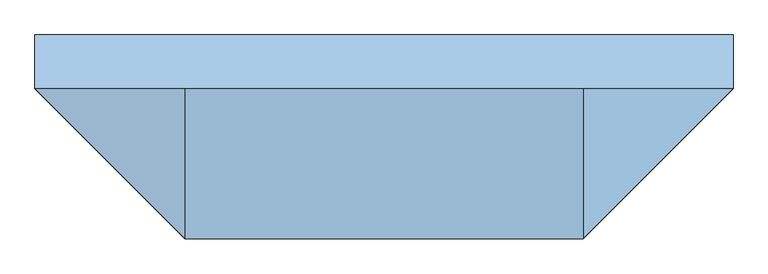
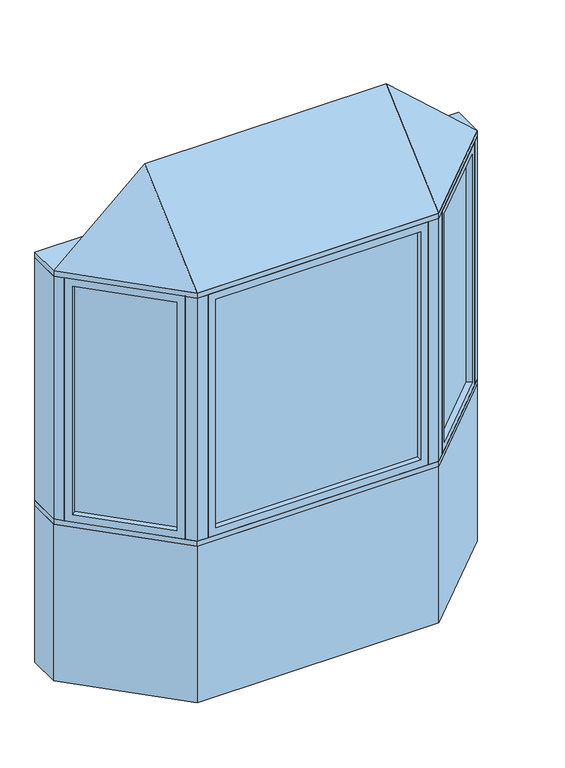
"""IFC4 building model written with IfcOpenShell, lengths in millimetres: window geometry, Pollard_Windows_Tudor Casement Bows and Bays : AML-BAY 45 AFR0512-10-500."""

from ifc_helpers import new_model, si_unit, frame, origin, origin_with_axes, place, context, project, spatial, polyline, outline, extrude, faceted_brep, source, transform, mapped, element, save


def window_99e7ff35(model_context):
    return source(origin(), model_context, "Body", "SolidModel", [
        extrude(outline(polyline([(924.0964271, -104.763169), (598.324814, -430.5347822), (594.7327115, -426.9426797), (920.5043247, -101.1710666), (924.0964271, -104.763169)])), frame((0.0, 0.0, 823.1628), z_axis=(0.0, 0.0, 1.0), x_axis=(1.0, 0.0, 0.0)), (0.0, 0.0, 1.0), 1153.6704),
        faceted_brep([(915.116171, -113.7434252, 835.8628), (933.0766833, -131.7039374, 835.8628), (933.0766833, -131.7039374, 1964.1332), (915.116171, -113.7434252, 1964.1332), (920.5043247, -101.1710666, 823.1628), (924.0964271, -104.763169, 823.1628), (924.0964271, -104.763169, 1976.8332), (920.5043247, -101.1710666, 1976.8332), (893.5635563, -92.1908105, 835.8628), (911.5240686, -110.1513227, 835.8628), (911.5240686, -110.1513227, 1964.1332), (893.5635563, -92.1908105, 1964.1332), (958.4369265, -106.3436941, 799.998), (918.9237996, -66.8305672, 799.998), (918.9237996, -66.8305672, 1999.998), (958.4369265, -106.3436941, 1999.998), (625.2655823, -439.5150383, 1964.1332), (607.3050701, -421.5545261, 1964.1332), (598.324814, -430.5347822, 1976.8332), (594.7327115, -426.9426797, 1976.8332), (603.7129677, -417.9624236, 1964.1332), (585.7524554, -400.0019114, 1964.1332), (560.3922121, -425.3621547, 1999.998), (599.9053391, -464.8752816, 1999.998), (625.2655823, -439.5150383, 835.8628), (607.3050701, -421.5545261, 835.8628), (598.324814, -430.5347822, 823.1628), (594.7327115, -426.9426797, 823.1628), (603.7129677, -417.9624236, 835.8628), (585.7524554, -400.0019114, 835.8628), (560.3922121, -425.3621547, 799.998), (599.9053391, -464.8752816, 799.998)], [[[0, 1, 2, 3]], [[4, 5, 6, 7]], [[8, 9, 10, 11]], [[12, 13, 14, 15]], [[3, 2, 16, 17]], [[7, 6, 18, 19]], [[11, 10, 20, 21]], [[15, 14, 22, 23]], [[17, 16, 24, 25]], [[19, 18, 26, 27]], [[21, 20, 28, 29]], [[23, 22, 30, 31]], [[25, 24, 1, 0]], [[5, 26, 18, 6], [3, 17, 25, 0]], [[27, 26, 5, 4]], [[7, 19, 27, 4], [9, 28, 20, 10]], [[29, 28, 9, 8]], [[13, 30, 22, 14], [11, 21, 29, 8]], [[31, 30, 13, 12]], [[15, 23, 31, 12], [1, 24, 16, 2]]]),
        extrude(outline(polyline([(-598.324814, -430.5347822), (-924.0964271, -104.763169), (-920.5043247, -101.1710666), (-594.7327115, -426.9426797), (-598.324814, -430.5347822)])), frame((0.0, 0.0, 823.1628), z_axis=(0.0, 0.0, 1.0), x_axis=(1.0, 0.0, 0.0)), (0.0, 0.0, 1.0), 1153.6704),
        faceted_brep([(-603.7129677, -417.9624236, 1964.1332), (-585.7524554, -400.0019114, 1964.1332), (-585.7524554, -400.0019114, 835.8628), (-603.7129677, -417.9624236, 835.8628), (-598.324814, -430.5347822, 1976.8332), (-594.7327115, -426.9426797, 1976.8332), (-594.7327115, -426.9426797, 823.1628), (-598.324814, -430.5347822, 823.1628), (-625.2655823, -439.5150383, 1964.1332), (-607.3050701, -421.5545261, 1964.1332), (-607.3050701, -421.5545261, 835.8628), (-625.2655823, -439.5150383, 835.8628), (-560.3922121, -425.3621547, 1999.998), (-599.9053391, -464.8752816, 1999.998), (-599.9053391, -464.8752816, 799.998), (-560.3922121, -425.3621547, 799.998), (-893.5635563, -92.1908105, 835.8628), (-911.5240686, -110.1513227, 835.8628), (-920.5043247, -101.1710666, 823.1628), (-924.0964271, -104.763169, 823.1628), (-915.116171, -113.7434252, 835.8628), (-933.0766833, -131.7039374, 835.8628), (-958.4369265, -106.3436941, 799.998), (-918.9237996, -66.8305672, 799.998), (-893.5635563, -92.1908105, 1964.1332), (-911.5240686, -110.1513227, 1964.1332), (-920.5043247, -101.1710666, 1976.8332), (-924.0964271, -104.763169, 1976.8332), (-915.116171, -113.7434252, 1964.1332), (-933.0766833, -131.7039374, 1964.1332), (-958.4369265, -106.3436941, 1999.998), (-918.9237996, -66.8305672, 1999.998)], [[[0, 1, 2, 3]], [[4, 5, 6, 7]], [[8, 9, 10, 11]], [[12, 13, 14, 15]], [[3, 2, 16, 17]], [[7, 6, 18, 19]], [[11, 10, 20, 21]], [[15, 14, 22, 23]], [[17, 16, 24, 25]], [[19, 18, 26, 27]], [[21, 20, 28, 29]], [[23, 22, 30, 31]], [[15, 23, 31, 12], [1, 24, 16, 2]], [[25, 24, 1, 0]], [[5, 26, 18, 6], [3, 17, 25, 0]], [[27, 26, 5, 4]], [[7, 19, 27, 4], [9, 28, 20, 10]], [[29, 28, 9, 8]], [[13, 30, 22, 14], [11, 21, 29, 8]], [[31, 30, 13, 12]]]),
        extrude(outline(polyline([(491.3852, -474.8306207), (-491.3852, -474.8306207), (-491.3852, -469.7506207), (491.3852, -469.7506207), (491.3852, -474.8306207)])), frame((0.0, 0.0, 823.1628), z_axis=(0.0, 0.0, 1.0), x_axis=(1.0, 0.0, 0.0)), (0.0, 0.0, 1.0), 1153.6704),
        faceted_brep([(478.6852, -474.8306207, 835.8628), (478.6852, -500.2306207, 835.8628), (478.6852, -500.2306207, 1964.1332), (478.6852, -474.8306207, 1964.1332), (491.3852, -469.7506207, 823.1628), (491.3852, -474.8306207, 823.1628), (491.3852, -474.8306207, 1976.8332), (491.3852, -469.7506207, 1976.8332), (478.6852, -444.3506207, 835.8628), (478.6852, -469.7506207, 835.8628), (478.6852, -469.7506207, 1964.1332), (478.6852, -444.3506207, 1964.1332), (514.55, -500.2306207, 799.998), (514.55, -444.3506207, 799.998), (514.55, -444.3506207, 1999.998), (514.55, -500.2306207, 1999.998), (-478.6852, -500.2306207, 1964.1332), (-478.6852, -474.8306207, 1964.1332), (-491.3852, -474.8306207, 1976.8332), (-491.3852, -469.7506207, 1976.8332), (-478.6852, -469.7506207, 1964.1332), (-478.6852, -444.3506207, 1964.1332), (-514.55, -444.3506207, 1999.998), (-514.55, -500.2306207, 1999.998), (-478.6852, -500.2306207, 835.8628), (-478.6852, -474.8306207, 835.8628), (-491.3852, -474.8306207, 823.1628), (-491.3852, -469.7506207, 823.1628), (-478.6852, -469.7506207, 835.8628), (-478.6852, -444.3506207, 835.8628), (-514.55, -444.3506207, 799.998), (-514.55, -500.2306207, 799.998)], [[[0, 1, 2, 3]], [[4, 5, 6, 7]], [[8, 9, 10, 11]], [[12, 13, 14, 15]], [[3, 2, 16, 17]], [[7, 6, 18, 19]], [[11, 10, 20, 21]], [[15, 14, 22, 23]], [[17, 16, 24, 25]], [[19, 18, 26, 27]], [[21, 20, 28, 29]], [[23, 22, 30, 31]], [[15, 23, 31, 12], [1, 24, 16, 2]], [[25, 24, 1, 0]], [[5, 26, 18, 6], [3, 17, 25, 0]], [[27, 26, 5, 4]], [[7, 19, 27, 4], [9, 28, 20, 10]], [[29, 28, 9, 8]], [[13, 30, 22, 14], [11, 21, 29, 8]], [[31, 30, 13, 12]]]),
        faceted_brep([(990.0, -74.7806207, 2025.398), (564.55, -500.2306207, 2025.398), (-564.55, -500.2306207, 2025.398), (-990.0, -74.7806207, 2025.398), (-564.55, -74.7806207, 2406.398), (564.55, -74.7806207, 2406.398)], [[[0, 1, 2, 3]], [[3, 2, 4]], [[2, 1, 5, 4]], [[1, 0, 5]], [[0, 3, 4, 5]]]),
        extrude(outline(polyline([(-990.0, 77.6193793), (990.0, 77.6193793), (990.0, -74.7806207), (564.55, -500.2306207), (-564.55, -500.2306207), (-990.0, -74.7806207), (-990.0, 77.6193793)])), frame((0.0, 0.0, 1999.998), z_axis=(0.0, 0.0, 1.0), x_axis=(1.0, 0.0, 0.0)), (0.0, 0.0, 1.0), 25.4),
        extrude(outline(polyline([(-990.0, -74.7806207), (-990.0, 77.6193793), (-926.8738531, 77.6193793), (-926.8738531, -74.7806207), (-958.4369265, -106.3436941), (-990.0, -74.7806207)])), frame((0.0, 0.0, 799.998), z_axis=(0.0, 0.0, 1.0), x_axis=(1.0, 0.0, 0.0)), (0.0, 0.0, 1.0), 1200.0),
        extrude(outline(polyline([(990.0, 77.6193793), (990.0, -74.7806207), (958.4369265, -106.3436941), (926.8738531, -74.7806207), (926.8738531, 77.6193793), (990.0, 77.6193793)])), frame((0.0, 0.0, 799.998), z_axis=(0.0, 0.0, 1.0), x_axis=(1.0, 0.0, 0.0)), (0.0, 0.0, 1.0), 1200.0),
        extrude(outline(polyline([(564.55, -500.2306207), (514.55, -500.2306207), (514.55, -450.2306207), (543.8393219, -450.2306207), (564.55, -429.5199425), (599.9053391, -464.8752816), (564.55, -500.2306207)])), frame((0.0, 0.0, 799.998), z_axis=(0.0, 0.0, 1.0), x_axis=(1.0, 0.0, 0.0)), (0.0, 0.0, 1.0), 1200.0),
        extrude(outline(polyline([(-564.55, -500.2306207), (-599.9053391, -464.8752816), (-564.55, -429.5199425), (-543.8393219, -450.2306207), (-514.55, -450.2306207), (-514.55, -500.2306207), (-564.55, -500.2306207)])), frame((0.0, 0.0, 799.998), z_axis=(0.0, 0.0, 1.0), x_axis=(1.0, 0.0, 0.0)), (0.0, 0.0, 1.0), 1200.0),
        extrude(outline(polyline([(-564.55, -500.2306207), (-990.0, -74.7806207), (-990.0, 77.6193793), (-926.8738531, 77.6193793), (-501.4238531, -347.8306207), (501.4238531, -347.8306207), (926.8738531, 77.6193793), (990.0, 77.6193793), (990.0, -74.7806207), (564.55, -500.2306207), (-564.55, -500.2306207)])), frame((0.0, 0.0, 774.598), z_axis=(0.0, 0.0, 1.0), x_axis=(1.0, 0.0, 0.0)), (0.0, 0.0, 1.0), 25.4),
        extrude(outline(polyline([(-990.0, -74.7806207), (-990.0, 77.6193793), (-926.8738531, 77.6193793), (-501.4238531, -347.8306207), (501.4238531, -347.8306207), (926.8738531, 77.6193793), (990.0, 77.6193793), (990.0, -74.7806207), (564.55, -500.2306207), (-564.55, -500.2306207), (-990.0, -74.7806207)])), origin_with_axes(), (0.0, 0.0, 1.0), 774.598),
    ])


if __name__ == "__main__":
    model = new_model("IFC4")
    model_context = context("Model", 3, world=origin())
    ifc_project = project(units=[si_unit("LENGTHUNIT", "METRE", prefix="MILLI")], contexts=[model_context])
    site = spatial("IfcSite", under=ifc_project)
    building = spatial("IfcBuilding", under=site)
    placement = place(None, origin())
    window_shape = window_99e7ff35(model_context)
    element("IfcWindow", 1, ObjectType="Pollard_Windows_Tudor Casement Bows and Bays : AML-BAY 45 AFR0512-10-500", at=placement, inside=building, context=model_context, shape_type="MappedRepresentation", body=[
        mapped(window_shape, transform((0.0, 0.0, 0.0), x_axis=(1.0, 0.0, 0.0), y_axis=(0.0, 1.0, 0.0), z_axis=(0.0, 0.0, 1.0))),
    ])
    save(model, "model.ifc")
